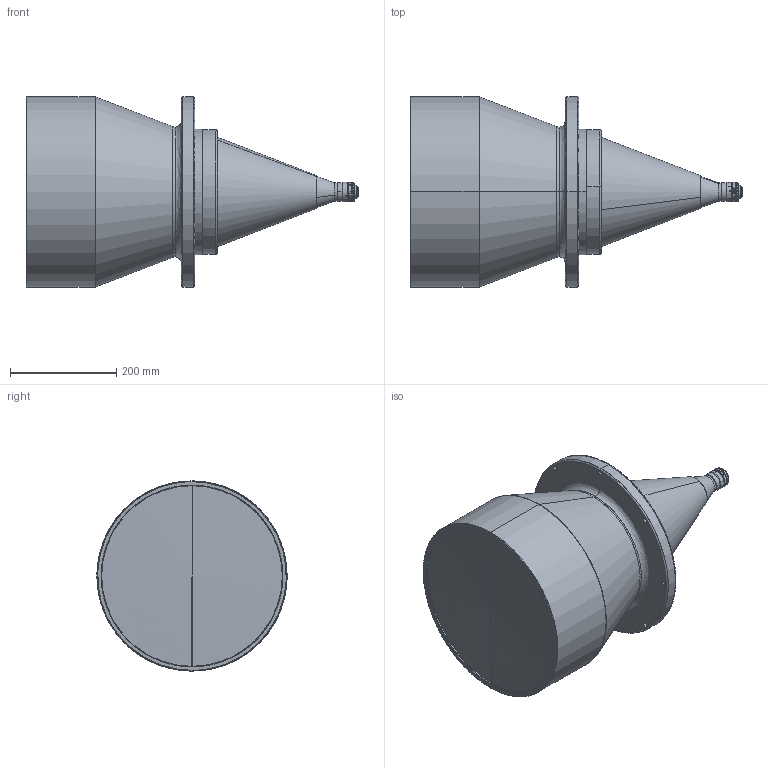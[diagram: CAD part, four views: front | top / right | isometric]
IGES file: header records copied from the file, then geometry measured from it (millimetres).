
Start section: SolidWorks IGES file using analytic representation for surfaces
Global section: file name: F:\BaiduSyncdisk\1-产品  2022-new\DTCM（2023.5.29整体拷过来）\F+B\－－ AL   可调后截距\300S-  AL-ok\DTCM125-300S-AL\3D\DTCM125-300S-AL.IGS; native system: SolidWorks 2017; preprocessor: SolidWorks 2017; author: luo-PC; date: 231122.184022; units: millimetre
Bounding box: 624.94 x 358 x 358 mm (x, y, z)
Surface area: 683967.5 mm2 (no closed solid volume)
Topology: 0 solids, 0 shells, 189 faces, 3861 edges, 3857 vertices
Faces by surface type: revolution 147, bspline 42
